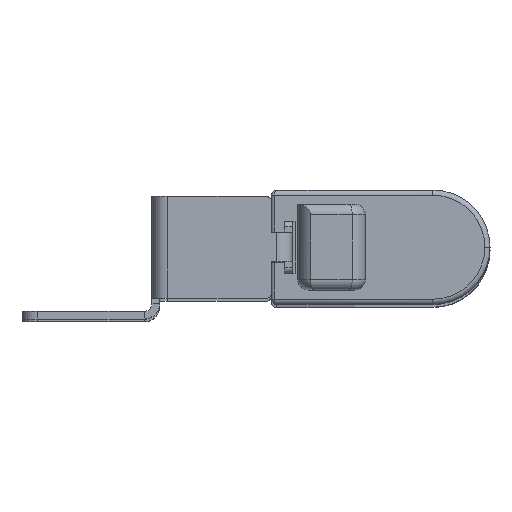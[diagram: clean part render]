
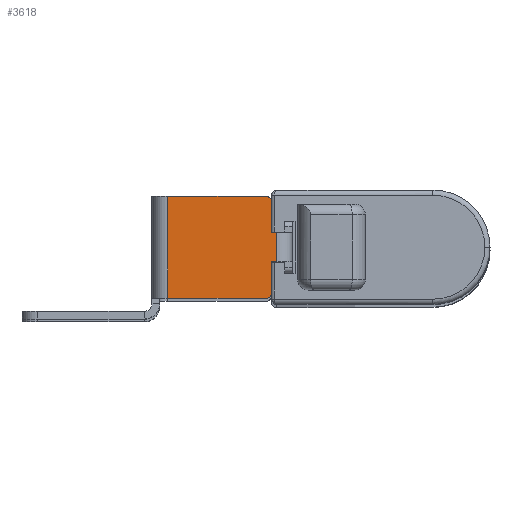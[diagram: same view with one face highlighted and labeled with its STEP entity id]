
A CAD part, top view. The second image highlights one B-rep face of the part: STEP entity #3618.
In plain terms, the highlighted planar face has unit normal (0, 0, 1) as drawn and (0, 1, 0) by its records, which use the part's own axes.
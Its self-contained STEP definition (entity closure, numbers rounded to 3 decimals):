
#31 = EDGE_CURVE ( 'NONE', #2517, #5070, #3471, .T. ) ;
#96 = EDGE_CURVE ( 'NONE', #3842, #669, #1803, .T. ) ;
#151 = VECTOR ( 'NONE', #4109, 1000. ) ;
#269 = CARTESIAN_POINT ( 'NONE',  ( 24., 0., 9.8 ) ) ;
#375 = DIRECTION ( 'NONE',  ( 0., -1., 0. ) ) ;
#388 = LINE ( 'NONE', #801, #5167 ) ;
#521 = AXIS2_PLACEMENT_3D ( 'NONE', #1990, #2464, #3439 ) ;
#567 = CARTESIAN_POINT ( 'NONE',  ( 4., 0., -8.8 ) ) ;
#636 = EDGE_CURVE ( 'NONE', #1559, #5642, #3241, .T. ) ;
#653 = CARTESIAN_POINT ( 'NONE',  ( 24., 0., -9.8 ) ) ;
#669 = VERTEX_POINT ( 'NONE', #4862 ) ;
#691 = ORIENTED_EDGE ( 'NONE', *, *, #636, .F. ) ;
#751 = VERTEX_POINT ( 'NONE', #2674 ) ;
#797 = LINE ( 'NONE', #889, #151 ) ;
#801 = CARTESIAN_POINT ( 'NONE',  ( 0., 0., -2.8 ) ) ;
#814 = CARTESIAN_POINT ( 'NONE',  ( 5., 0., -8.8 ) ) ;
#868 = CARTESIAN_POINT ( 'NONE',  ( 5., 0., 9.8 ) ) ;
#889 = CARTESIAN_POINT ( 'NONE',  ( 0., 0., 2.8 ) ) ;
#935 = ORIENTED_EDGE ( 'NONE', *, *, #31, .T. ) ;
#957 = ORIENTED_EDGE ( 'NONE', *, *, #1643, .T. ) ;
#1094 = AXIS2_PLACEMENT_3D ( 'NONE', #5369, #375, #3606 ) ;
#1108 = CARTESIAN_POINT ( 'NONE',  ( 4., 0., 2.8 ) ) ;
#1149 = CARTESIAN_POINT ( 'NONE',  ( 0., 0., 9.8 ) ) ;
#1204 = LINE ( 'NONE', #3503, #1429 ) ;
#1390 = CARTESIAN_POINT ( 'NONE',  ( 3., 0., -2.8 ) ) ;
#1429 = VECTOR ( 'NONE', #4373, 1000. ) ;
#1533 = CARTESIAN_POINT ( 'NONE',  ( 3., 0., 9.8 ) ) ;
#1552 = CIRCLE ( 'NONE', #521, 1. ) ;
#1559 = VERTEX_POINT ( 'NONE', #2416 ) ;
#1643 = EDGE_CURVE ( 'NONE', #4316, #5642, #1712, .T. ) ;
#1712 = LINE ( 'NONE', #1149, #4014 ) ;
#1803 = LINE ( 'NONE', #3790, #3541 ) ;
#1838 = EDGE_CURVE ( 'NONE', #5674, #1559, #1204, .T. ) ;
#1990 = CARTESIAN_POINT ( 'NONE',  ( 5., 0., 8.8 ) ) ;
#1997 = ORIENTED_EDGE ( 'NONE', *, *, #5057, .T. ) ;
#2215 = DIRECTION ( 'NONE',  ( 0., -1., 0. ) ) ;
#2325 = ORIENTED_EDGE ( 'NONE', *, *, #96, .T. ) ;
#2416 = CARTESIAN_POINT ( 'NONE',  ( 24., 0., -9.8 ) ) ;
#2418 = DIRECTION ( 'NONE',  ( 0., 0., -1. ) ) ;
#2464 = DIRECTION ( 'NONE',  ( 0., -1., 0. ) ) ;
#2496 = EDGE_LOOP ( 'NONE', ( #957, #691, #3136, #2504, #2325, #1997, #2777, #3094, #935, #4964 ) ) ;
#2504 = ORIENTED_EDGE ( 'NONE', *, *, #5762, .F. ) ;
#2517 = VERTEX_POINT ( 'NONE', #1108 ) ;
#2576 = DIRECTION ( 'NONE',  ( 0., 0., 1. ) ) ;
#2674 = CARTESIAN_POINT ( 'NONE',  ( 3., 0., 2.8 ) ) ;
#2684 = CARTESIAN_POINT ( 'NONE',  ( 4., 0., 8.8 ) ) ;
#2777 = ORIENTED_EDGE ( 'NONE', *, *, #4783, .F. ) ;
#2788 = FACE_OUTER_BOUND ( 'NONE', #2496, .T. ) ;
#2831 = VECTOR ( 'NONE', #3673, 1000. ) ;
#2980 = DIRECTION ( 'NONE',  ( 1., 0., 0. ) ) ;
#2985 = LINE ( 'NONE', #1533, #5963 ) ;
#3033 = CARTESIAN_POINT ( 'NONE',  ( 5., 0., -9.8 ) ) ;
#3094 = ORIENTED_EDGE ( 'NONE', *, *, #5926, .T. ) ;
#3136 = ORIENTED_EDGE ( 'NONE', *, *, #1838, .F. ) ;
#3241 = LINE ( 'NONE', #653, #3609 ) ;
#3428 = AXIS2_PLACEMENT_3D ( 'NONE', #814, #2215, #5917 ) ;
#3439 = DIRECTION ( 'NONE',  ( 0., 0., 1. ) ) ;
#3471 = LINE ( 'NONE', #4697, #2831 ) ;
#3503 = CARTESIAN_POINT ( 'NONE',  ( 0., 0., -9.8 ) ) ;
#3541 = VECTOR ( 'NONE', #4258, 1000. ) ;
#3606 = DIRECTION ( 'NONE',  ( 0., 0., 1. ) ) ;
#3609 = VECTOR ( 'NONE', #2576, 1000. ) ;
#3618 = ADVANCED_FACE ( 'NONE', ( #2788 ), #4925, .F. ) ;
#3673 = DIRECTION ( 'NONE',  ( 0., 0., 1. ) ) ;
#3742 = VERTEX_POINT ( 'NONE', #1390 ) ;
#3790 = CARTESIAN_POINT ( 'NONE',  ( 4., 0., -9.8 ) ) ;
#3842 = VERTEX_POINT ( 'NONE', #567 ) ;
#3951 = EDGE_CURVE ( 'NONE', #4316, #5070, #1552, .T. ) ;
#4014 = VECTOR ( 'NONE', #2980, 1000. ) ;
#4043 = CIRCLE ( 'NONE', #3428, 1. ) ;
#4109 = DIRECTION ( 'NONE',  ( 1., 0., 0. ) ) ;
#4258 = DIRECTION ( 'NONE',  ( 0., 0., 1. ) ) ;
#4316 = VERTEX_POINT ( 'NONE', #868 ) ;
#4373 = DIRECTION ( 'NONE',  ( 1., 0., 0. ) ) ;
#4697 = CARTESIAN_POINT ( 'NONE',  ( 4., 0., 9.8 ) ) ;
#4783 = EDGE_CURVE ( 'NONE', #751, #3742, #2985, .T. ) ;
#4862 = CARTESIAN_POINT ( 'NONE',  ( 4., 0., -2.8 ) ) ;
#4925 = PLANE ( 'NONE',  #1094 ) ;
#4964 = ORIENTED_EDGE ( 'NONE', *, *, #3951, .F. ) ;
#5057 = EDGE_CURVE ( 'NONE', #669, #3742, #388, .T. ) ;
#5070 = VERTEX_POINT ( 'NONE', #2684 ) ;
#5167 = VECTOR ( 'NONE', #5904, 1000. ) ;
#5369 = CARTESIAN_POINT ( 'NONE',  ( 0., 0., 9.8 ) ) ;
#5642 = VERTEX_POINT ( 'NONE', #269 ) ;
#5674 = VERTEX_POINT ( 'NONE', #3033 ) ;
#5762 = EDGE_CURVE ( 'NONE', #3842, #5674, #4043, .T. ) ;
#5904 = DIRECTION ( 'NONE',  ( -1., 0., 0. ) ) ;
#5917 = DIRECTION ( 'NONE',  ( 0., 0., 1. ) ) ;
#5926 = EDGE_CURVE ( 'NONE', #751, #2517, #797, .T. ) ;
#5963 = VECTOR ( 'NONE', #2418, 1000. ) ;
